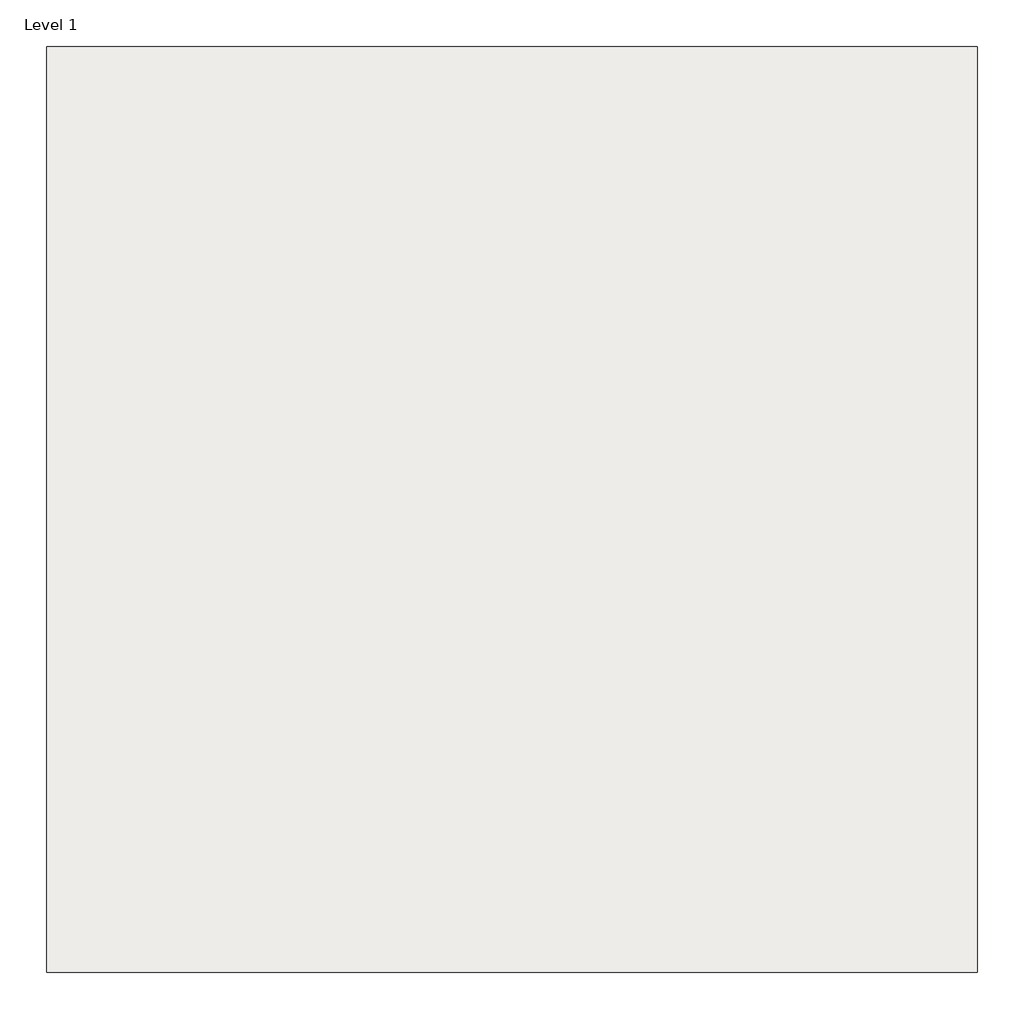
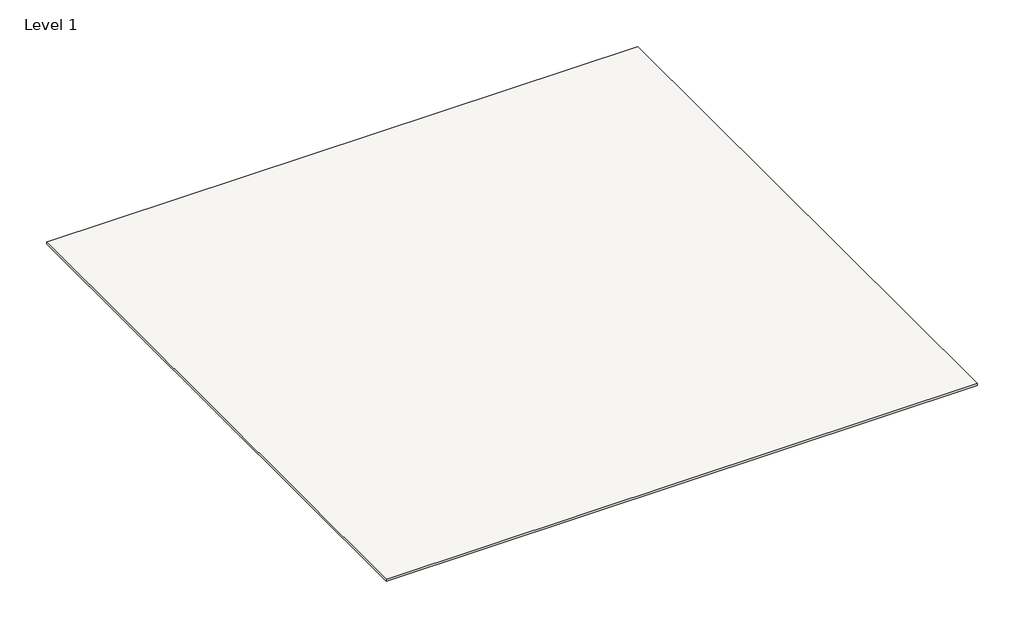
# One storey: 1 covering.
"""IFC4 building model written with IfcOpenShell, lengths in millimetres."""

import ifcopenshell
import ifcopenshell.guid

model = None  # the IFC model being written
_history = None  # IfcOwnerHistory: only IFC2X3 demands one
_inside = {}  # id of a spatial element -> (the spatial element, [elements in it])
_under = {}  # id of a project, library or spatial element -> (it, [spatial elements below it])
_declared = {}  # id of a project -> (the project, [libraries it declares])
_typed = {}  # id of a type object -> (the type object, [elements of that type])
_made_of = {}  # id of a material, layer set ... -> (it, [elements and type objects made of it])


def new_model(schema):
    """Start an empty IFC model of exactly this schema.

    Asked for "IFC4X3", IfcOpenShell would pick the latest addendum, in which some entities
    have other attributes; the version numbers below select the first issue.
    IFC2X3 requires an IfcOwnerHistory on every rooted entity: one is made here for all.
    """
    global model, _history
    if schema == "IFC4X3":
        model = ifcopenshell.file(schema_version=(4, 3, 0, 0))
    else:
        model = ifcopenshell.file(schema=schema)
    _inside.clear()
    _under.clear()
    _declared.clear()
    _typed.clear()
    _made_of.clear()
    _history = None
    if model.schema == "IFC2X3":
        org = make("IfcOrganization", Name="unknown")
        user = make(
            "IfcPersonAndOrganization",
            ThePerson=make("IfcPerson", FamilyName="unknown"),
            TheOrganization=org,
        )
        app = make(
            "IfcApplication",
            ApplicationDeveloper=org,
            Version="unknown",
            ApplicationFullName="unknown",
            ApplicationIdentifier="unknown",
        )
        _history = make(
            "IfcOwnerHistory",
            OwningUser=user,
            OwningApplication=app,
            ChangeAction="ADDED",
            CreationDate=0,
        )
    return model


def make(cls, **values):
    """One entity of the class cls with the attributes given. An attribute that is None is left unset."""
    return model.create_entity(
        cls, **{name: value for name, value in values.items() if value is not None}
    )


def rooted(cls, **values):
    """An entity with a GlobalId (a new one), such as an element, a storey or a relation."""
    return make(cls, GlobalId=ifcopenshell.guid.new(), OwnerHistory=_history, **values)


def si_unit(unit_type, name, prefix=None):
    """IfcSIUnit, for example si_unit("LENGTHUNIT", "METRE", prefix="MILLI")."""
    return make("IfcSIUnit", UnitType=unit_type, Prefix=prefix, Name=name)


def assignment(units):
    """IfcUnitAssignment: the units of a project."""
    return None if units is None else make("IfcUnitAssignment", Units=units)


def point(xyz):
    """IfcCartesianPoint."""
    return None if xyz is None else make("IfcCartesianPoint", Coordinates=xyz)


def direction(xyz):
    """IfcDirection."""
    return None if xyz is None else make("IfcDirection", DirectionRatios=xyz)


def frame(location, z_axis=None, x_axis=None):
    """IfcAxis2Placement3D, a coordinate frame: its origin and axes. An axis left out is left unset."""
    return make(
        "IfcAxis2Placement3D",
        Location=point(location),
        Axis=direction(z_axis),
        RefDirection=direction(x_axis),
    )


def origin():
    """The frame at (0, 0, 0) with its axes left unset."""
    return frame((0.0, 0.0, 0.0))


def origin_with_axes():
    """The frame at (0, 0, 0) with the z axis (0, 0, 1) and the x axis (1, 0, 0) written out."""
    return frame((0.0, 0.0, 0.0), z_axis=(0.0, 0.0, 1.0), x_axis=(1.0, 0.0, 0.0))


def place(relative_to, where):
    """IfcLocalPlacement: puts the frame where relative to a parent placement (None: the world)."""
    return make(
        "IfcLocalPlacement", PlacementRelTo=relative_to, RelativePlacement=where
    )


def context(
    kind, dimensions, precision=None, world=None, true_north=None, identifier=None
):
    """IfcGeometricRepresentationContext, for example the 3D "Model" context."""
    return make(
        "IfcGeometricRepresentationContext",
        ContextIdentifier=identifier,
        ContextType=kind,
        CoordinateSpaceDimension=dimensions,
        Precision=precision,
        WorldCoordinateSystem=world,
        TrueNorth=true_north,
    )


def project(units=None, contexts=None):
    """IfcProject with its units and contexts."""
    return rooted(
        "IfcProject",
        Name="project",
        RepresentationContexts=contexts,
        UnitsInContext=assignment(units),
    )


def spatial(cls, under=None, at=None, **own):
    """A site, building, storey or space (cls), placed at a placement, below another one or the project."""
    s = rooted(cls, ObjectPlacement=at, **own)
    if under is not None:
        _under.setdefault(under.id(), (under, []))[1].append(s)
    return s


def polyline(points):
    """IfcPolyline through the points."""
    return make("IfcPolyline", Points=[point(p) for p in points])


def outline(outer, holes=None, kind="AREA"):
    """IfcArbitraryClosedProfileDef: a profile drawn as a closed curve; with holes, ...WithVoids."""
    if holes is None:
        return make("IfcArbitraryClosedProfileDef", ProfileType=kind, OuterCurve=outer)
    return make(
        "IfcArbitraryProfileDefWithVoids",
        ProfileType=kind,
        OuterCurve=outer,
        InnerCurves=holes,
    )


def extrude(swept, where, along, depth):
    """IfcExtrudedAreaSolid: the profile swept, set in the frame where, extruded along a direction by depth."""
    return make(
        "IfcExtrudedAreaSolid",
        SweptArea=swept,
        Position=where,
        ExtrudedDirection=direction(along),
        Depth=depth,
    )


def shape(context_of_items, identifier, shape_type, items):
    """IfcShapeRepresentation: the items that make up one representation, for example the "Body"."""
    return make(
        "IfcShapeRepresentation",
        ContextOfItems=context_of_items,
        RepresentationIdentifier=identifier,
        RepresentationType=shape_type,
        Items=items,
    )


def made_of(thing, what):
    """Note that an element or type object is made of a material, layer set ...; save() writes the relation."""
    if what is not None:
        _made_of.setdefault(what.id(), (what, []))[1].append(thing)
    return thing


def element(
    cls,
    number,
    at=None,
    inside=None,
    cuts=None,
    type_object=None,
    material=None,
    context=None,
    identifier="Body",
    shape_type=None,
    held_by="IfcProductDefinitionShape",
    body=None,
    shapes=None,
    **own,
):
    """One element of the class cls, such as IfcWall. Its Tag is "e" and its number.

    at: its placement. inside: the storey or other place that contains it. cuts: it is an
    opening in that element (IfcRelVoidsElement). A single representation is given by context,
    identifier, shape_type and body (its items); several are given by shapes. held_by: the class
    of the entity that holds the representations. save() writes the other relations.
    """
    e = rooted(cls, Tag="e%d" % number, ObjectPlacement=at, **own)
    if body is not None:
        shapes = [shape(context, identifier, shape_type, body)]
    if shapes is not None:
        e.Representation = make(held_by, Representations=shapes)
    if inside is not None:
        _inside.setdefault(inside.id(), (inside, []))[1].append(e)
    if cuts is not None:
        rooted(
            "IfcRelVoidsElement", RelatingBuildingElement=cuts, RelatedOpeningElement=e
        )
    if type_object is not None:
        _typed.setdefault(type_object.id(), (type_object, []))[1].append(e)
    return made_of(e, material)


def aggregate(whole, parts):
    """IfcRelAggregates: a whole, such as a stair, and the parts it consists of."""
    return rooted("IfcRelAggregates", RelatingObject=whole, RelatedObjects=parts)


def save(model, path):
    """Write the relations noted so far, then the file.

    IfcRelAggregates (storeys below a building ...), IfcRelContainedInSpatialStructure (elements
    in a storey), IfcRelDefinesByType, IfcRelAssociatesMaterial and IfcRelDeclares: one each for
    every whole, place, type object, material and project.
    """
    for whole, parts in _under.values():
        aggregate(whole, parts)
    for where, things in _inside.values():
        rooted(
            "IfcRelContainedInSpatialStructure",
            RelatedElements=things,
            RelatingStructure=where,
        )
    for kind, things in _typed.values():
        rooted("IfcRelDefinesByType", RelatedObjects=things, RelatingType=kind)
    for what, things in _made_of.values():
        rooted("IfcRelAssociatesMaterial", RelatedObjects=things, RelatingMaterial=what)
    for by, libraries in _declared.values():
        rooted("IfcRelDeclares", RelatingContext=by, RelatedDefinitions=libraries)
    model.write(path)


model = new_model("IFC4")

# Units and contexts
model_context = context("Model", 3, world=origin())
ifc_project = project(units=[si_unit("LENGTHUNIT", "METRE", prefix="MILLI")], contexts=[model_context])

# Site, building, storey
site = spatial("IfcSite", under=ifc_project)
building = spatial("IfcBuilding", under=site)
storey = spatial("IfcBuildingStorey", under=building, Name="Level 1", Elevation=0.0)

# Covering
placement = place(None, origin())
element("IfcCovering", 1, ObjectType="Rockfon Education Standard SLN 2'x2'x5/8''", at=placement, inside=storey, context=model_context, shape_type="SweptSolid", body=[
    extrude(outline(polyline([(-8901.3776569, 5089.2737695), (-8901.3776569, 288.6737695), (-13727.3776569, 288.6737695), (-13727.3776569, 5089.2737695), (-8901.3776569, 5089.2737695)])), origin_with_axes(), (0.0, 0.0, 1.0), 16.002),
])

save(model, "model.ifc")
